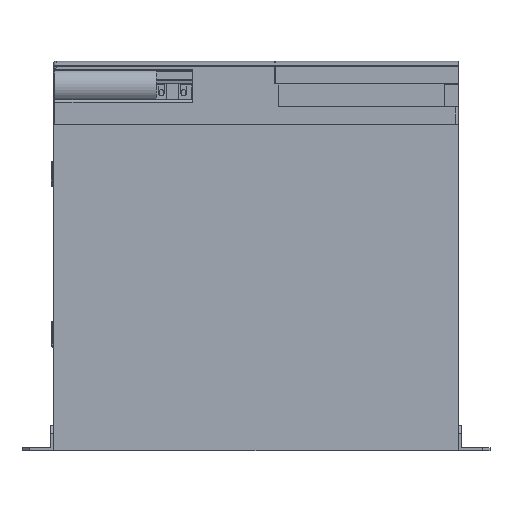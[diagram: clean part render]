
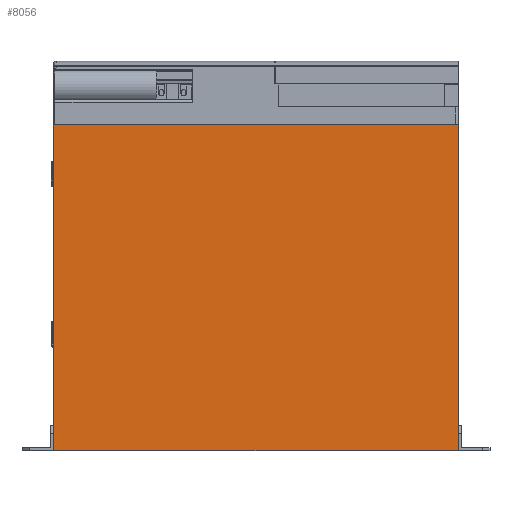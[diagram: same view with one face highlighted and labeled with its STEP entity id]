
A CAD part, left-side view. The second image highlights one B-rep face of the part: STEP entity #8056.
In plain terms, the highlighted planar face has unit normal (-1, 0, 0).
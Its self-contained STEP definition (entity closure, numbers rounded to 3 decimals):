
#8056=ADVANCED_FACE('',(#14992),#14991,.F.);
#14991=PLANE('',#60507);
#14992=FACE_OUTER_BOUND('',#60508,.T.);
#60504=CARTESIAN_POINT('',(-7.1,-169.5,-4.9));
#60505=DIRECTION('',(1.,0.,0.));
#60506=DIRECTION('',(0.,0.,-1.));
#60507=AXIS2_PLACEMENT_3D('',#60504,#60505,#60506);
#60508=EDGE_LOOP('',(#85418,#85419,#85420,#85421));
#85418=ORIENTED_EDGE('',*,*,#109882,.T.);
#85419=ORIENTED_EDGE('',*,*,#109885,.F.);
#85420=ORIENTED_EDGE('',*,*,#109883,.F.);
#85421=ORIENTED_EDGE('',*,*,#109863,.T.);
#109863=EDGE_CURVE('',#125760,#125753,#125761,.T.);
#109882=EDGE_CURVE('',#125753,#125877,#125884,.T.);
#109883=EDGE_CURVE('',#125760,#125890,#125891,.T.);
#109885=EDGE_CURVE('',#125890,#125877,#125903,.T.);
#125753=VERTEX_POINT('',#211597);
#125760=VERTEX_POINT('',#211601);
#125761=LINE('',#211602,#211603);
#125877=VERTEX_POINT('',#211664);
#125884=LINE('',#211668,#211669);
#125890=VERTEX_POINT('',#211671);
#125891=LINE('',#211672,#211673);
#125903=LINE('',#211678,#211679);
#211597=CARTESIAN_POINT('',(-7.1,0.5,-143.9));
#211601=CARTESIAN_POINT('',(-7.1,0.5,-14.9));
#211602=CARTESIAN_POINT('',(-7.1,0.5,-14.9));
#211603=VECTOR('',#211604,129.);
#211604=DIRECTION('',(0.,0.,-1.));
#211664=CARTESIAN_POINT('',(-7.1,-159.5,-143.9));
#211668=CARTESIAN_POINT('',(-7.1,0.5,-143.9));
#211669=VECTOR('',#211670,160.);
#211670=DIRECTION('',(0.,-1.,0.));
#211671=CARTESIAN_POINT('',(-7.1,-159.5,-14.9));
#211672=CARTESIAN_POINT('',(-7.1,0.5,-14.9));
#211673=VECTOR('',#211674,160.);
#211674=DIRECTION('',(0.,-1.,0.));
#211678=CARTESIAN_POINT('',(-7.1,-159.5,-14.9));
#211679=VECTOR('',#211680,129.);
#211680=DIRECTION('',(0.,0.,-1.));
